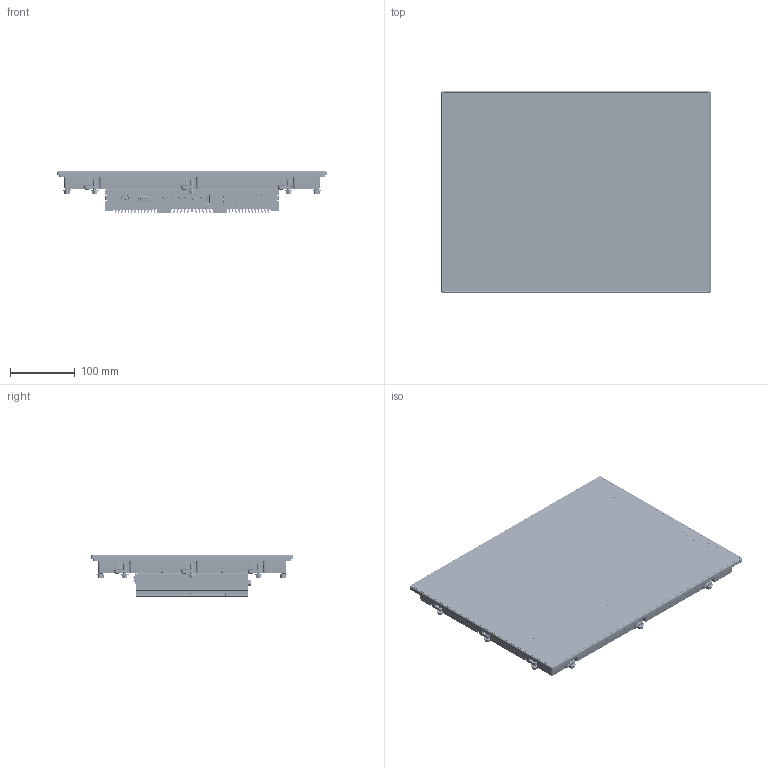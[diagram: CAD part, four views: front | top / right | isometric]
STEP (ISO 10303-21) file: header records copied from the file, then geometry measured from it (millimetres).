
FILE_DESCRIPTION (( 'STEP AP214' ), '1' );
FILE_NAME ('IPPC1640P-VP_ASM.STEP', '2018-08-20T02:49:46', ( '' ), ( '' ), 'SwSTEP 2.0', 'SolidWorks 2018', '' );
FILE_SCHEMA (( 'AUTOMOTIVE_DESIGN' ));
Length unit declared in the file: millimetre
Products named in the file (1): IPPC1640P-VP_ASM
Bounding box: 417.8 x 312.8 x 63.85 mm (x, y, z)
Surface area: 2165023.6 mm2 (no closed solid volume)
Topology: 0 solids, 1078 shells, 19435 faces, 58070 edges, 39559 vertices
Faces by surface type: plane 10827, cylinder 5892, bspline 1718, cone 527, torus 374, sphere 97
Entity records: 947623 total; most frequent: CARTESIAN_POINT 233069, ORIENTED_EDGE 104616, DIRECTION 93448, EDGE_CURVE 57798, VERTEX_POINT 39520, VECTOR 37462, LINE 37462, AXIS2_PLACEMENT_3D 27993
